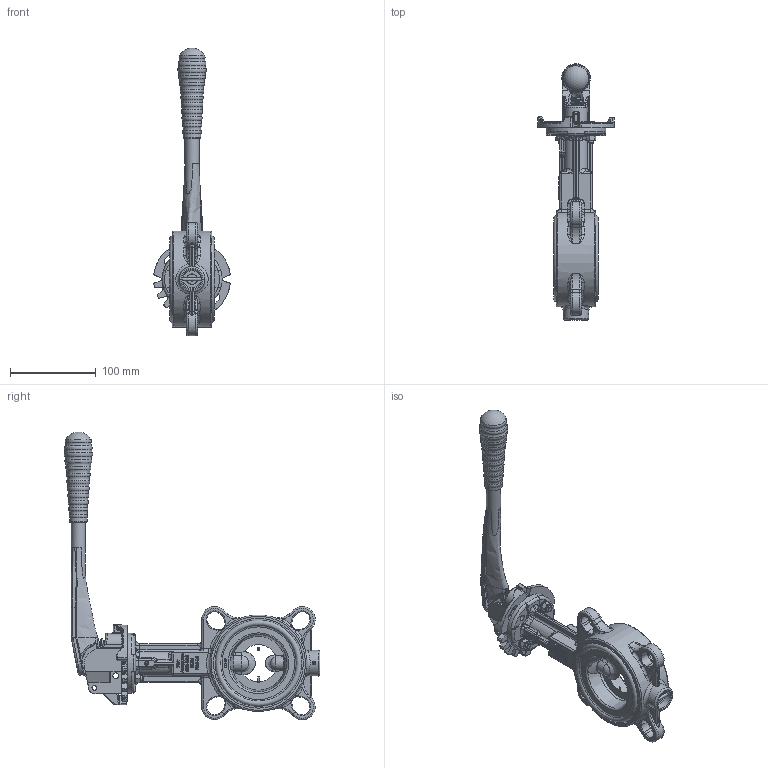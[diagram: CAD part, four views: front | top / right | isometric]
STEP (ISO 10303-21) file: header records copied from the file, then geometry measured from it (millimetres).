
FILE_DESCRIPTION((''),'2;1');
FILE_NAME('K:\Inventor\1 Artikel\10) Absperrklappen\10a) manuell\ABO Valve\890-GGG, 994B\890-GGG, DN65\890-GGG, DN65, 3D\890-GGG, DN65, PN6-16, HH, 3D.stp','2019-08-13T10:47:02',('claudia'),(''),'Autodesk Inventor 2013','Autodesk Inventor 2013','');
FILE_SCHEMA(('AUTOMOTIVE_DESIGN { 1 0 10303 214 1 1 1 1 }'));
Length unit declared in the file: millimetre
Products named in the file (1): Bauteil2
Bounding box: 89.17 x 299.25 x 336.43 mm (x, y, z)
Surface area: 154290.6 mm2
Topology: 13 solids, 14 shells, 2189 faces, 5744 edges, 3623 vertices
Faces by surface type: plane 760, bspline 711, cylinder 373, torus 229, cone 93, sphere 23
Full cylindrical faces by diameter (mm): 3.85 x1, 4 x2, 4.2 x1, 5 x2, 5.5 x2, 6 x4, 6.3 x2, 6.4 x2, 6.5 x2, 7 x4, 8.9 x1, 9.5 x1, 11.3 x2, 12 x5, 12.5 x1, 12.75 x2, 16 x3, 16.05 x1, 16.5 x2, 19 x1, 19.8 x1, 20 x1, 20.5 x1, 22 x2, 22.5 x1, 25 x1, 30 x1, 36 x1, 70 x1, 101 x2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
Entity records: 97355 total; most frequent: CARTESIAN_POINT 48815, ORIENTED_EDGE 11034, DIRECTION 7933, EDGE_CURVE 5519, VERTEX_POINT 3565, AXIS2_PLACEMENT_3D 2846, EDGE_LOOP 2441, VECTOR 2241
